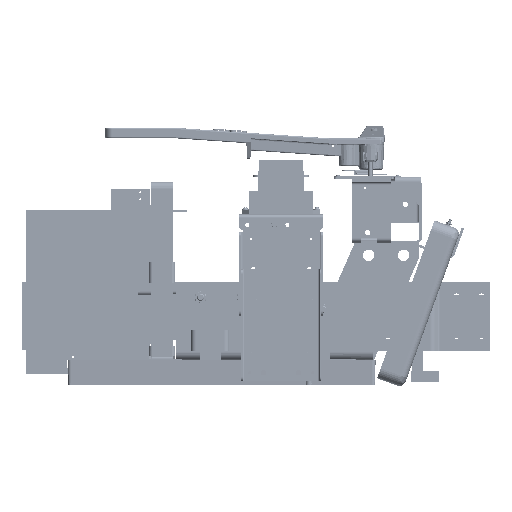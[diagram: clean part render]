
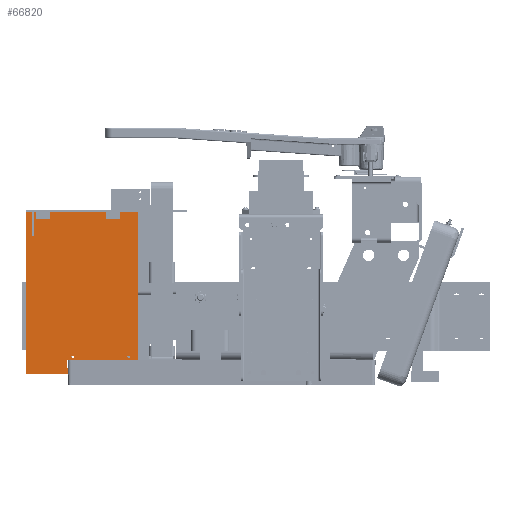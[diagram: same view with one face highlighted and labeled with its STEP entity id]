
A CAD part, left-side view. The second image highlights one B-rep face of the part: STEP entity #66820.
In plain terms, the highlighted planar face has unit normal (-1, 0, 0) as drawn and (0, 0, -1) by its records, which use the part's own axes.
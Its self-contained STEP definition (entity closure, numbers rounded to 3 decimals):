
#3450=FACE_BOUND('',#13873,.T.);
#3451=FACE_BOUND('',#13874,.T.);
#3452=FACE_BOUND('',#13875,.T.);
#3453=FACE_BOUND('',#13876,.T.);
#5379=CIRCLE('',#73466,0.097);
#5381=CIRCLE('',#73469,0.097);
#5383=CIRCLE('',#73472,0.097);
#5385=CIRCLE('',#73475,0.097);
#9647=FACE_OUTER_BOUND('',#13872,.T.);
#13872=EDGE_LOOP('',(#53089,#53090,#53091,#53092,#53093,#53094,#53095,#53096,
#53097,#53098,#53099,#53100));
#13873=EDGE_LOOP('',(#53101));
#13874=EDGE_LOOP('',(#53102));
#13875=EDGE_LOOP('',(#53103));
#13876=EDGE_LOOP('',(#53104));
#19212=LINE('',#107971,#25070);
#19216=LINE('',#107979,#25074);
#19219=LINE('',#107985,#25077);
#19222=LINE('',#107991,#25080);
#19225=LINE('',#107997,#25083);
#19228=LINE('',#108003,#25086);
#19231=LINE('',#108009,#25089);
#19234=LINE('',#108015,#25092);
#19237=LINE('',#108021,#25095);
#19240=LINE('',#108027,#25098);
#19243=LINE('',#108033,#25101);
#19246=LINE('',#108038,#25104);
#25070=VECTOR('',#86304,0.394);
#25074=VECTOR('',#86310,0.394);
#25077=VECTOR('',#86315,0.394);
#25080=VECTOR('',#86320,0.394);
#25083=VECTOR('',#86325,0.394);
#25086=VECTOR('',#86330,0.394);
#25089=VECTOR('',#86335,0.394);
#25092=VECTOR('',#86340,0.394);
#25095=VECTOR('',#86345,0.394);
#25098=VECTOR('',#86350,0.394);
#25101=VECTOR('',#86355,0.394);
#25104=VECTOR('',#86360,0.394);
#31074=VERTEX_POINT('',#107945);
#31076=VERTEX_POINT('',#107951);
#31078=VERTEX_POINT('',#107957);
#31080=VERTEX_POINT('',#107963);
#31082=VERTEX_POINT('',#107969);
#31083=VERTEX_POINT('',#107970);
#31086=VERTEX_POINT('',#107978);
#31088=VERTEX_POINT('',#107984);
#31090=VERTEX_POINT('',#107990);
#31092=VERTEX_POINT('',#107996);
#31094=VERTEX_POINT('',#108002);
#31096=VERTEX_POINT('',#108008);
#31098=VERTEX_POINT('',#108014);
#31100=VERTEX_POINT('',#108020);
#31102=VERTEX_POINT('',#108026);
#31104=VERTEX_POINT('',#108032);
#38841=EDGE_CURVE('',#31074,#31074,#5379,.T.);
#38844=EDGE_CURVE('',#31076,#31076,#5381,.T.);
#38847=EDGE_CURVE('',#31078,#31078,#5383,.T.);
#38850=EDGE_CURVE('',#31080,#31080,#5385,.T.);
#38853=EDGE_CURVE('',#31082,#31083,#19212,.T.);
#38857=EDGE_CURVE('',#31086,#31082,#19216,.T.);
#38860=EDGE_CURVE('',#31088,#31086,#19219,.T.);
#38863=EDGE_CURVE('',#31090,#31088,#19222,.T.);
#38866=EDGE_CURVE('',#31092,#31090,#19225,.T.);
#38869=EDGE_CURVE('',#31094,#31092,#19228,.T.);
#38872=EDGE_CURVE('',#31096,#31094,#19231,.T.);
#38875=EDGE_CURVE('',#31098,#31096,#19234,.T.);
#38878=EDGE_CURVE('',#31100,#31098,#19237,.T.);
#38881=EDGE_CURVE('',#31102,#31100,#19240,.T.);
#38884=EDGE_CURVE('',#31104,#31102,#19243,.T.);
#38887=EDGE_CURVE('',#31083,#31104,#19246,.T.);
#53089=ORIENTED_EDGE('',*,*,#38887,.F.);
#53090=ORIENTED_EDGE('',*,*,#38853,.F.);
#53091=ORIENTED_EDGE('',*,*,#38857,.F.);
#53092=ORIENTED_EDGE('',*,*,#38860,.F.);
#53093=ORIENTED_EDGE('',*,*,#38863,.F.);
#53094=ORIENTED_EDGE('',*,*,#38866,.F.);
#53095=ORIENTED_EDGE('',*,*,#38869,.F.);
#53096=ORIENTED_EDGE('',*,*,#38872,.F.);
#53097=ORIENTED_EDGE('',*,*,#38875,.F.);
#53098=ORIENTED_EDGE('',*,*,#38878,.F.);
#53099=ORIENTED_EDGE('',*,*,#38881,.F.);
#53100=ORIENTED_EDGE('',*,*,#38884,.F.);
#53101=ORIENTED_EDGE('',*,*,#38841,.T.);
#53102=ORIENTED_EDGE('',*,*,#38844,.T.);
#53103=ORIENTED_EDGE('',*,*,#38847,.T.);
#53104=ORIENTED_EDGE('',*,*,#38850,.T.);
#64026=PLANE('',#73490);
#66820=ADVANCED_FACE('',(#9647,#3450,#3451,#3452,#3453),#64026,.F.);
#73466=AXIS2_PLACEMENT_3D('',#107946,#86276,#86277);
#73469=AXIS2_PLACEMENT_3D('',#107952,#86283,#86284);
#73472=AXIS2_PLACEMENT_3D('',#107958,#86290,#86291);
#73475=AXIS2_PLACEMENT_3D('',#107964,#86297,#86298);
#73490=AXIS2_PLACEMENT_3D('',#108041,#86364,#86365);
#86276=DIRECTION('center_axis',(0.,0.,1.));
#86277=DIRECTION('ref_axis',(-1.,0.,0.));
#86283=DIRECTION('center_axis',(0.,0.,1.));
#86284=DIRECTION('ref_axis',(-1.,0.,0.));
#86290=DIRECTION('center_axis',(0.,0.,1.));
#86291=DIRECTION('ref_axis',(-1.,0.,0.));
#86297=DIRECTION('center_axis',(0.,0.,1.));
#86298=DIRECTION('ref_axis',(-1.,0.,0.));
#86304=DIRECTION('',(1.,0.,0.));
#86310=DIRECTION('',(0.,1.,0.));
#86315=DIRECTION('',(1.,0.,0.));
#86320=DIRECTION('',(0.,-1.,0.));
#86325=DIRECTION('',(-1.,0.,0.));
#86330=DIRECTION('',(0.,-1.,0.));
#86335=DIRECTION('',(1.,0.,0.));
#86340=DIRECTION('',(0.,-1.,0.));
#86345=DIRECTION('',(-1.,0.,0.));
#86350=DIRECTION('',(0.,1.,0.));
#86355=DIRECTION('',(1.,0.,0.));
#86360=DIRECTION('',(0.,-1.,0.));
#86364=DIRECTION('center_axis',(0.,0.,1.));
#86365=DIRECTION('ref_axis',(1.,0.,0.));
#107945=CARTESIAN_POINT('',(0.347,2.,0.));
#107946=CARTESIAN_POINT('Origin',(0.25,2.,0.));
#107951=CARTESIAN_POINT('',(0.347,7.,0.));
#107952=CARTESIAN_POINT('Origin',(0.25,7.,0.));
#107957=CARTESIAN_POINT('',(10.472,0.688,0.));
#107958=CARTESIAN_POINT('Origin',(10.375,0.688,0.));
#107963=CARTESIAN_POINT('',(10.472,4.688,0.));
#107964=CARTESIAN_POINT('Origin',(10.375,4.688,0.));
#107969=CARTESIAN_POINT('',(10.625,5.094,0.));
#107970=CARTESIAN_POINT('',(11.156,5.094,0.));
#107971=CARTESIAN_POINT('',(10.625,5.094,0.));
#107978=CARTESIAN_POINT('',(10.625,0.,0.));
#107979=CARTESIAN_POINT('',(10.625,0.,0.));
#107984=CARTESIAN_POINT('',(0.,0.,0.));
#107985=CARTESIAN_POINT('',(0.,0.,0.));
#107990=CARTESIAN_POINT('',(0.,7.422,0.));
#107991=CARTESIAN_POINT('',(0.,7.422,0.));
#107996=CARTESIAN_POINT('',(1.75,7.422,0.));
#107997=CARTESIAN_POINT('',(1.75,7.422,0.));
#108002=CARTESIAN_POINT('',(1.75,7.578,0.));
#108003=CARTESIAN_POINT('',(1.75,7.578,0.));
#108008=CARTESIAN_POINT('',(0.,7.578,0.));
#108009=CARTESIAN_POINT('',(0.,7.578,0.));
#108014=CARTESIAN_POINT('',(0.,8.,0.));
#108015=CARTESIAN_POINT('',(0.,8.,0.));
#108020=CARTESIAN_POINT('',(11.625,8.,0.));
#108021=CARTESIAN_POINT('',(11.625,8.,0.));
#108026=CARTESIAN_POINT('',(11.625,4.719,0.));
#108027=CARTESIAN_POINT('',(11.625,4.719,0.));
#108032=CARTESIAN_POINT('',(11.156,4.719,0.));
#108033=CARTESIAN_POINT('',(11.156,4.719,0.));
#108038=CARTESIAN_POINT('',(11.156,5.094,0.));
#108041=CARTESIAN_POINT('Origin',(5.401,4.41,0.));
